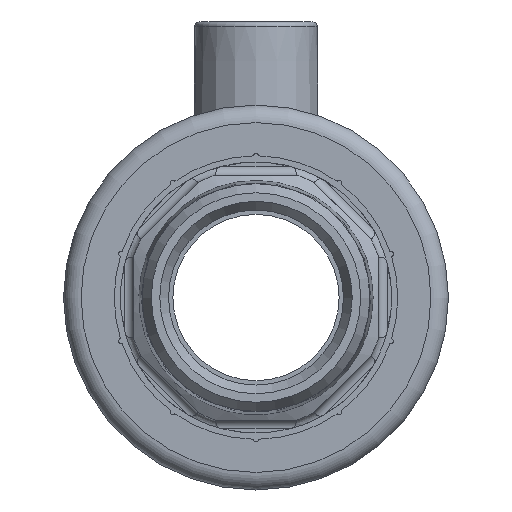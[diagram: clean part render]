
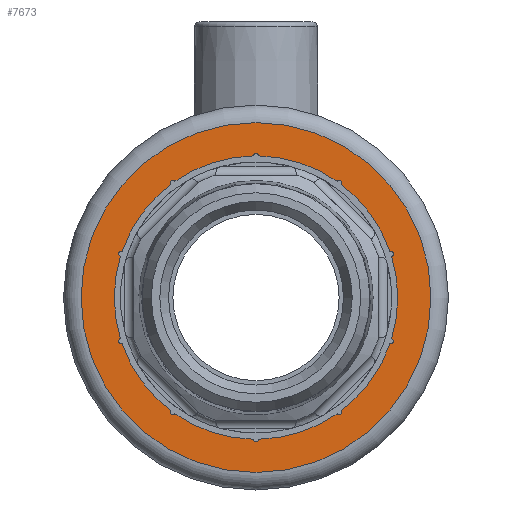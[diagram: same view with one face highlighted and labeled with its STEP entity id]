
A CAD part, left-side view. The second image highlights one B-rep face of the part: STEP entity #7673.
In plain terms, the highlighted planar face has unit normal (-1, 0, 0).
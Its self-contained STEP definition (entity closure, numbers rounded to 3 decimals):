
#535=PLANE('',#9922);
#759=CIRCLE('',#9588,16.2);
#763=CIRCLE('',#9593,0.3);
#768=CIRCLE('',#9608,16.2);
#772=CIRCLE('',#9613,0.3);
#779=CIRCLE('',#9630,0.3);
#780=CIRCLE('',#9632,0.3);
#786=CIRCLE('',#9640,16.2);
#790=CIRCLE('',#9645,16.2);
#793=CIRCLE('',#9652,0.3);
#796=CIRCLE('',#9657,16.2);
#800=CIRCLE('',#9662,0.3);
#801=CIRCLE('',#9665,0.3);
#804=CIRCLE('',#9670,0.3);
#805=CIRCLE('',#9672,16.2);
#813=CIRCLE('',#9683,16.2);
#817=CIRCLE('',#9688,16.2);
#819=CIRCLE('',#9692,0.3);
#820=CIRCLE('',#9695,16.2);
#824=CIRCLE('',#9700,16.2);
#834=CIRCLE('',#9721,0.3);
#935=CIRCLE('',#9923,20.);
#2321=ORIENTED_EDGE('',*,*,#3638,.F.);
#2322=ORIENTED_EDGE('',*,*,#3761,.F.);
#2323=ORIENTED_EDGE('',*,*,#3753,.T.);
#2324=ORIENTED_EDGE('',*,*,#3821,.F.);
#2325=ORIENTED_EDGE('',*,*,#3791,.F.);
#2326=ORIENTED_EDGE('',*,*,#3796,.F.);
#2327=ORIENTED_EDGE('',*,*,#3783,.F.);
#2328=ORIENTED_EDGE('',*,*,#3831,.F.);
#2329=ORIENTED_EDGE('',*,*,#3774,.T.);
#2330=ORIENTED_EDGE('',*,*,#3845,.F.);
#2331=ORIENTED_EDGE('',*,*,#3837,.F.);
#2332=ORIENTED_EDGE('',*,*,#3855,.F.);
#2333=ORIENTED_EDGE('',*,*,#3704,.T.);
#2334=ORIENTED_EDGE('',*,*,#3729,.F.);
#2335=ORIENTED_EDGE('',*,*,#3712,.F.);
#2336=ORIENTED_EDGE('',*,*,#3741,.F.);
#2337=ORIENTED_EDGE('',*,*,#3887,.F.);
#2338=ORIENTED_EDGE('',*,*,#3666,.F.);
#2339=ORIENTED_EDGE('',*,*,#3679,.F.);
#2340=ORIENTED_EDGE('',*,*,#3626,.T.);
#2341=ORIENTED_EDGE('',*,*,#4149,.T.);
#3626=EDGE_CURVE('',#4811,#4810,#759,.T.);
#3638=EDGE_CURVE('',#4822,#4810,#763,.T.);
#3666=EDGE_CURVE('',#4839,#4840,#768,.T.);
#3679=EDGE_CURVE('',#4811,#4839,#772,.T.);
#3704=EDGE_CURVE('',#4865,#4866,#779,.T.);
#3712=EDGE_CURVE('',#4873,#4874,#780,.T.);
#3729=EDGE_CURVE('',#4874,#4866,#786,.T.);
#3741=EDGE_CURVE('',#4898,#4873,#790,.T.);
#3753=EDGE_CURVE('',#4908,#4907,#793,.T.);
#3761=EDGE_CURVE('',#4908,#4822,#796,.T.);
#3774=EDGE_CURVE('',#4926,#4925,#800,.T.);
#3783=EDGE_CURVE('',#4933,#4934,#801,.T.);
#3791=EDGE_CURVE('',#4940,#4941,#804,.T.);
#3796=EDGE_CURVE('',#4934,#4940,#805,.T.);
#3821=EDGE_CURVE('',#4941,#4907,#813,.T.);
#3831=EDGE_CURVE('',#4926,#4933,#817,.T.);
#3837=EDGE_CURVE('',#4977,#4978,#819,.T.);
#3845=EDGE_CURVE('',#4978,#4925,#820,.T.);
#3855=EDGE_CURVE('',#4865,#4977,#824,.T.);
#3887=EDGE_CURVE('',#4840,#4898,#834,.T.);
#4149=EDGE_CURVE('',#5152,#5152,#935,.T.);
#4810=VERTEX_POINT('',#12495);
#4811=VERTEX_POINT('',#12497);
#4822=VERTEX_POINT('',#12540);
#4839=VERTEX_POINT('',#12696);
#4840=VERTEX_POINT('',#12698);
#4865=VERTEX_POINT('',#12884);
#4866=VERTEX_POINT('',#12885);
#4873=VERTEX_POINT('',#12922);
#4874=VERTEX_POINT('',#12924);
#4898=VERTEX_POINT('',#13031);
#4907=VERTEX_POINT('',#13093);
#4908=VERTEX_POINT('',#13095);
#4925=VERTEX_POINT('',#13179);
#4926=VERTEX_POINT('',#13181);
#4933=VERTEX_POINT('',#13229);
#4934=VERTEX_POINT('',#13231);
#4940=VERTEX_POINT('',#13264);
#4941=VERTEX_POINT('',#13265);
#4977=VERTEX_POINT('',#13449);
#4978=VERTEX_POINT('',#13451);
#5152=VERTEX_POINT('',#15287);
#6416=EDGE_LOOP('',(#2321,#2322,#2323,#2324,#2325,#2326,#2327,#2328,#2329,
#2330,#2331,#2332,#2333,#2334,#2335,#2336,#2337,#2338,#2339,#2340));
#6417=EDGE_LOOP('',(#2341));
#6972=FACE_BOUND('',#6416,.T.);
#6973=FACE_BOUND('',#6417,.T.);
#7673=ADVANCED_FACE('',(#6972,#6973),#535,.T.);
#9588=AXIS2_PLACEMENT_3D('',#12496,#10557,#10558);
#9593=AXIS2_PLACEMENT_3D('',#12539,#10570,#10571);
#9608=AXIS2_PLACEMENT_3D('',#12697,#10604,#10605);
#9613=AXIS2_PLACEMENT_3D('',#12749,#10617,#10618);
#9630=AXIS2_PLACEMENT_3D('',#12883,#10653,#10654);
#9632=AXIS2_PLACEMENT_3D('',#12923,#10660,#10661);
#9640=AXIS2_PLACEMENT_3D('',#12989,#10679,#10680);
#9645=AXIS2_PLACEMENT_3D('',#13032,#10692,#10693);
#9652=AXIS2_PLACEMENT_3D('',#13094,#10707,#10708);
#9657=AXIS2_PLACEMENT_3D('',#13127,#10718,#10719);
#9662=AXIS2_PLACEMENT_3D('',#13180,#10731,#10732);
#9665=AXIS2_PLACEMENT_3D('',#13230,#10739,#10740);
#9670=AXIS2_PLACEMENT_3D('',#13263,#10750,#10751);
#9672=AXIS2_PLACEMENT_3D('',#13285,#10756,#10757);
#9683=AXIS2_PLACEMENT_3D('',#13388,#10782,#10783);
#9688=AXIS2_PLACEMENT_3D('',#13423,#10794,#10795);
#9692=AXIS2_PLACEMENT_3D('',#13450,#10803,#10804);
#9695=AXIS2_PLACEMENT_3D('',#13489,#10810,#10811);
#9700=AXIS2_PLACEMENT_3D('',#13524,#10822,#10823);
#9721=AXIS2_PLACEMENT_3D('',#13674,#10868,#10869);
#9922=AXIS2_PLACEMENT_3D('',#15285,#11296,#11297);
#9923=AXIS2_PLACEMENT_3D('',#15286,#11298,#11299);
#10557=DIRECTION('',(1.,0.,0.));
#10558=DIRECTION('',(0.,1.,0.));
#10570=DIRECTION('',(-1.,0.,0.));
#10571=DIRECTION('',(0.,0.,1.));
#10604=DIRECTION('',(-1.,0.,0.));
#10605=DIRECTION('',(0.,0.,1.));
#10617=DIRECTION('',(-1.,0.,0.));
#10618=DIRECTION('',(0.,0.,1.));
#10653=DIRECTION('',(1.,0.,0.));
#10654=DIRECTION('',(0.,-0.809,0.588));
#10660=DIRECTION('',(-1.,0.,0.));
#10661=DIRECTION('',(0.,0.,1.));
#10679=DIRECTION('',(-1.,0.,0.));
#10680=DIRECTION('',(0.,0.,1.));
#10692=DIRECTION('',(-1.,0.,0.));
#10693=DIRECTION('',(0.,0.,1.));
#10707=DIRECTION('',(1.,0.,0.));
#10708=DIRECTION('',(0.,-0.809,-0.588));
#10718=DIRECTION('',(-1.,0.,0.));
#10719=DIRECTION('',(0.,0.,1.));
#10731=DIRECTION('',(1.,0.,0.));
#10732=DIRECTION('',(0.,0.309,0.951));
#10739=DIRECTION('',(-1.,0.,0.));
#10740=DIRECTION('',(0.,0.,1.));
#10750=DIRECTION('',(-1.,0.,0.));
#10751=DIRECTION('',(0.,0.,1.));
#10756=DIRECTION('',(-1.,0.,0.));
#10757=DIRECTION('',(0.,0.,1.));
#10782=DIRECTION('',(-1.,0.,0.));
#10783=DIRECTION('',(0.,0.,1.));
#10794=DIRECTION('',(-1.,0.,0.));
#10795=DIRECTION('',(0.,0.,1.));
#10803=DIRECTION('',(-1.,0.,0.));
#10804=DIRECTION('',(0.,0.,1.));
#10810=DIRECTION('',(-1.,0.,0.));
#10811=DIRECTION('',(0.,0.,1.));
#10822=DIRECTION('',(-1.,0.,0.));
#10823=DIRECTION('',(0.,0.,1.));
#10868=DIRECTION('',(-1.,0.,0.));
#10869=DIRECTION('',(0.,0.,1.));
#11296=DIRECTION('',(-1.,0.,0.));
#11297=DIRECTION('',(0.,0.,1.));
#11298=DIRECTION('',(-1.,0.,0.));
#11299=DIRECTION('',(0.,0.,1.));
#12495=CARTESIAN_POINT('',(0.,15.495,4.726));
#12496=CARTESIAN_POINT('',(0.,0.,0.));
#12497=CARTESIAN_POINT('',(0.,15.499,-4.713));
#12539=CARTESIAN_POINT('',(0.,15.399,5.011));
#12540=CARTESIAN_POINT('',(0.,15.309,5.297));
#12696=CARTESIAN_POINT('',(0.,15.314,-5.284));
#12697=CARTESIAN_POINT('',(0.,0.,0.));
#12698=CARTESIAN_POINT('',(0.,9.768,-12.923));
#12749=CARTESIAN_POINT('',(0.,15.404,-4.998));
#12883=CARTESIAN_POINT('',(0.,-9.513,-13.105));
#12884=CARTESIAN_POINT('',(0.,-9.758,-12.931));
#12885=CARTESIAN_POINT('',(0.,-9.272,-13.284));
#12922=CARTESIAN_POINT('',(0.,0.307,-16.197));
#12923=CARTESIAN_POINT('',(0.,0.007,-16.194));
#12924=CARTESIAN_POINT('',(0.,-0.293,-16.197));
#12989=CARTESIAN_POINT('',(0.,0.,0.));
#13031=CARTESIAN_POINT('',(0.,9.283,-13.276));
#13032=CARTESIAN_POINT('',(0.,0.,0.));
#13093=CARTESIAN_POINT('',(0.,9.272,13.284));
#13094=CARTESIAN_POINT('',(0.,9.513,13.105));
#13095=CARTESIAN_POINT('',(0.,9.758,12.931));
#13127=CARTESIAN_POINT('',(0.,0.,0.));
#13179=CARTESIAN_POINT('',(0.,-15.499,4.713));
#13180=CARTESIAN_POINT('',(0.,-15.404,4.998));
#13181=CARTESIAN_POINT('',(0.,-15.314,5.284));
#13229=CARTESIAN_POINT('',(0.,-9.768,12.923));
#13230=CARTESIAN_POINT('',(0.,-9.524,13.097));
#13231=CARTESIAN_POINT('',(0.,-9.283,13.276));
#13263=CARTESIAN_POINT('',(0.,-0.007,16.194));
#13264=CARTESIAN_POINT('',(0.,-0.307,16.197));
#13265=CARTESIAN_POINT('',(0.,0.293,16.197));
#13285=CARTESIAN_POINT('',(0.,0.,0.));
#13388=CARTESIAN_POINT('',(0.,0.,0.));
#13423=CARTESIAN_POINT('',(0.,0.,0.));
#13449=CARTESIAN_POINT('',(0.,-15.309,-5.297));
#13450=CARTESIAN_POINT('',(0.,-15.399,-5.011));
#13451=CARTESIAN_POINT('',(0.,-15.495,-4.726));
#13489=CARTESIAN_POINT('',(0.,0.,0.));
#13524=CARTESIAN_POINT('',(0.,0.,0.));
#13674=CARTESIAN_POINT('',(0.,9.524,-13.097));
#15285=CARTESIAN_POINT('',(0.,0.,14.5));
#15286=CARTESIAN_POINT('',(0.,0.,0.));
#15287=CARTESIAN_POINT('',(0.,0.,20.));
